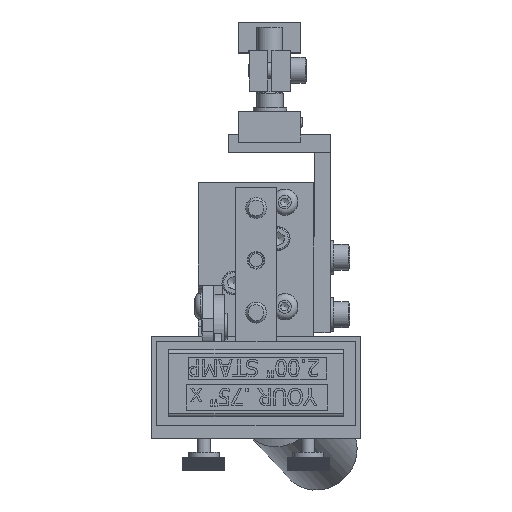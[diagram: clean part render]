
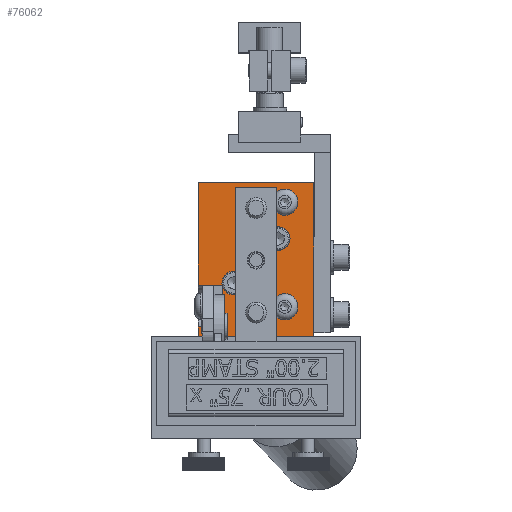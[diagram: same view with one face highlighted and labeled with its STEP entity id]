
A CAD part, top view. The second image highlights one B-rep face of the part: STEP entity #76062.
In plain terms, the highlighted planar face has unit normal (0, 0, 1).
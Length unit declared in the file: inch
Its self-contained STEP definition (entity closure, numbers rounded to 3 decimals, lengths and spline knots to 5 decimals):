
#60556=CARTESIAN_POINT('',(-1.17492,1.34565,1.5));
#60557=VERTEX_POINT('',#60556);
#60564=CARTESIAN_POINT('',(-1.17492,2.57065,1.5));
#60565=VERTEX_POINT('',#60564);
#60566=CARTESIAN_POINT('',(-1.17492,1.34565,1.5));
#60567=DIRECTION('',(0.0,1.0,0.0));
#60568=VECTOR('',#60567,1.225);
#60569=LINE('',#60566,#60568);
#60570=EDGE_CURVE('',#60557,#60565,#60569,.T.);
#60596=CARTESIAN_POINT('',(-1.17492,0.73065,1.5));
#60597=VERTEX_POINT('',#60596);
#60604=CARTESIAN_POINT('',(-1.17492,0.84565,1.5));
#60605=VERTEX_POINT('',#60604);
#60606=CARTESIAN_POINT('',(-1.17492,0.73065,1.5));
#60607=DIRECTION('',(0.0,1.0,0.0));
#60608=VECTOR('',#60607,0.115);
#60609=LINE('',#60606,#60608);
#60610=EDGE_CURVE('',#60597,#60605,#60609,.T.);
#61846=CARTESIAN_POINT('',(-0.08092,1.90065,1.5));
#61847=VERTEX_POINT('',#61846);
#61848=CARTESIAN_POINT('',(-0.22192,1.90065,1.5));
#61849=DIRECTION('',(0.0,0.0,-1.0));
#61850=DIRECTION('',(1.0,0.0,0.0));
#61851=AXIS2_PLACEMENT_3D('',#61848,#61849,#61850);
#61852=CIRCLE('',#61851,0.141);
#61853=EDGE_CURVE('',#61847,#61847,#61852,.T.);
#75103=CARTESIAN_POINT('',(0.20008,2.57065,1.5));
#75104=VERTEX_POINT('',#75103);
#75105=CARTESIAN_POINT('',(0.20008,0.73065,1.5));
#75106=VERTEX_POINT('',#75105);
#75107=CARTESIAN_POINT('',(0.20008,2.57065,1.5));
#75108=DIRECTION('',(0.0,-1.0,0.0));
#75109=VECTOR('',#75108,1.84);
#75110=LINE('',#75107,#75109);
#75111=EDGE_CURVE('',#75104,#75106,#75110,.T.);
#75772=CARTESIAN_POINT('',(-0.07892,2.33665,1.5));
#75773=VERTEX_POINT('',#75772);
#75774=CARTESIAN_POINT('',(-0.14392,2.33665,1.5));
#75775=DIRECTION('',(0.0,0.0,-1.0));
#75776=DIRECTION('',(1.0,0.0,0.0));
#75777=AXIS2_PLACEMENT_3D('',#75774,#75775,#75776);
#75778=CIRCLE('',#75777,0.065);
#75779=EDGE_CURVE('',#75773,#75773,#75778,.T.);
#75809=CARTESIAN_POINT('',(-0.07892,1.08665,1.5));
#75810=VERTEX_POINT('',#75809);
#75811=CARTESIAN_POINT('',(-0.14392,1.08665,1.5));
#75812=DIRECTION('',(0.0,0.0,-1.0));
#75813=DIRECTION('',(1.0,0.0,0.0));
#75814=AXIS2_PLACEMENT_3D('',#75811,#75812,#75813);
#75815=CIRCLE('',#75814,0.065);
#75816=EDGE_CURVE('',#75810,#75810,#75815,.T.);
#75857=CARTESIAN_POINT('',(-0.61192,1.37065,1.5));
#75858=VERTEX_POINT('',#75857);
#75859=CARTESIAN_POINT('',(-0.75292,1.37065,1.5));
#75860=DIRECTION('',(0.0,0.0,-1.0));
#75861=DIRECTION('',(1.0,0.0,0.0));
#75862=AXIS2_PLACEMENT_3D('',#75859,#75860,#75861);
#75863=CIRCLE('',#75862,0.141);
#75864=EDGE_CURVE('',#75858,#75858,#75863,.T.);
#75929=CARTESIAN_POINT('',(-0.99192,0.84565,1.5));
#75930=VERTEX_POINT('',#75929);
#75939=CARTESIAN_POINT('',(-0.99192,0.84565,1.5));
#75940=DIRECTION('',(-1.0,0.0,0.0));
#75941=VECTOR('',#75940,0.183);
#75942=LINE('',#75939,#75941);
#75943=EDGE_CURVE('',#75930,#60605,#75942,.T.);
#75953=CARTESIAN_POINT('',(-0.99192,1.34565,1.5));
#75954=VERTEX_POINT('',#75953);
#75961=CARTESIAN_POINT('',(-1.17492,1.34565,1.5));
#75962=DIRECTION('',(1.0,0.0,0.0));
#75963=VECTOR('',#75962,0.183);
#75964=LINE('',#75961,#75963);
#75965=EDGE_CURVE('',#60557,#75954,#75964,.T.);
#75979=CARTESIAN_POINT('',(-0.99192,1.34565,1.5));
#75980=DIRECTION('',(0.0,-1.0,0.0));
#75981=VECTOR('',#75980,0.5);
#75982=LINE('',#75979,#75981);
#75983=EDGE_CURVE('',#75954,#75930,#75982,.T.);
#75992=CARTESIAN_POINT('',(-0.48742,0.8545,1.5));
#75993=DIRECTION('',(0.0,0.0,1.0));
#75994=DIRECTION('',(1.0,0.0,0.0));
#75995=AXIS2_PLACEMENT_3D('',#75992,#75993,#75994);
#75996=PLANE('',#75995);
#75997=ORIENTED_EDGE('',*,*,#75965,.T.);
#75998=ORIENTED_EDGE('',*,*,#75983,.T.);
#75999=ORIENTED_EDGE('',*,*,#75943,.T.);
#76000=ORIENTED_EDGE('',*,*,#60610,.F.);
#76001=CARTESIAN_POINT('',(-1.17492,0.73065,1.5));
#76002=DIRECTION('',(1.0,0.0,0.0));
#76003=VECTOR('',#76002,1.375);
#76004=LINE('',#76001,#76003);
#76005=EDGE_CURVE('',#60597,#75106,#76004,.T.);
#76006=ORIENTED_EDGE('',*,*,#76005,.T.);
#76007=ORIENTED_EDGE('',*,*,#75111,.F.);
#76008=CARTESIAN_POINT('',(-1.17492,2.57065,1.5));
#76009=DIRECTION('',(1.0,0.0,0.0));
#76010=VECTOR('',#76009,1.375);
#76011=LINE('',#76008,#76010);
#76012=EDGE_CURVE('',#60565,#75104,#76011,.T.);
#76013=ORIENTED_EDGE('',*,*,#76012,.F.);
#76014=ORIENTED_EDGE('',*,*,#60570,.F.);
#76015=EDGE_LOOP('',(#75997,#75998,#75999,#76000,#76006,#76007,#76013,#76014));
#76016=FACE_OUTER_BOUND('',#76015,.T.);
#76017=ORIENTED_EDGE('',*,*,#61853,.T.);
#76018=EDGE_LOOP('',(#76017));
#76019=FACE_BOUND('',#76018,.T.);
#76020=ORIENTED_EDGE('',*,*,#75779,.T.);
#76021=EDGE_LOOP('',(#76020));
#76022=FACE_BOUND('',#76021,.T.);
#76023=ORIENTED_EDGE('',*,*,#75816,.T.);
#76024=EDGE_LOOP('',(#76023));
#76025=FACE_BOUND('',#76024,.T.);
#76026=ORIENTED_EDGE('',*,*,#75864,.T.);
#76027=EDGE_LOOP('',(#76026));
#76028=FACE_BOUND('',#76027,.T.);
#76029=CARTESIAN_POINT('',(-0.23692,2.26065,1.5));
#76030=VERTEX_POINT('',#76029);
#76031=CARTESIAN_POINT('',(-0.48692,2.26065,1.5));
#76032=DIRECTION('',(0.0,0.0,-1.0));
#76033=DIRECTION('',(-1.0,0.0,0.0));
#76034=AXIS2_PLACEMENT_3D('',#76031,#76032,#76033);
#76035=CIRCLE('',#76034,0.25);
#76036=EDGE_CURVE('',#76030,#76030,#76035,.T.);
#76037=ORIENTED_EDGE('',*,*,#76036,.T.);
#76038=EDGE_LOOP('',(#76037));
#76039=FACE_BOUND('',#76038,.T.);
#76040=CARTESIAN_POINT('',(-0.23692,1.01065,1.5));
#76041=VERTEX_POINT('',#76040);
#76042=CARTESIAN_POINT('',(-0.48692,1.01065,1.5));
#76043=DIRECTION('',(0.0,0.0,-1.0));
#76044=DIRECTION('',(-1.0,0.0,0.0));
#76045=AXIS2_PLACEMENT_3D('',#76042,#76043,#76044);
#76046=CIRCLE('',#76045,0.25);
#76047=EDGE_CURVE('',#76041,#76041,#76046,.T.);
#76048=ORIENTED_EDGE('',*,*,#76047,.T.);
#76049=EDGE_LOOP('',(#76048));
#76050=FACE_BOUND('',#76049,.T.);
#76051=CARTESIAN_POINT('',(-0.37755,1.63565,1.5));
#76052=VERTEX_POINT('',#76051);
#76053=CARTESIAN_POINT('',(-0.48692,1.63565,1.5));
#76054=DIRECTION('',(0.0,0.0,-1.0));
#76055=DIRECTION('',(-1.0,0.0,0.0));
#76056=AXIS2_PLACEMENT_3D('',#76053,#76054,#76055);
#76057=CIRCLE('',#76056,0.10938);
#76058=EDGE_CURVE('',#76052,#76052,#76057,.T.);
#76059=ORIENTED_EDGE('',*,*,#76058,.T.);
#76060=EDGE_LOOP('',(#76059));
#76061=FACE_BOUND('',#76060,.T.);
#76062=ADVANCED_FACE('',(#76016,#76019,#76022,#76025,#76028,#76039,#76050,#76061),#75996,.T.);
